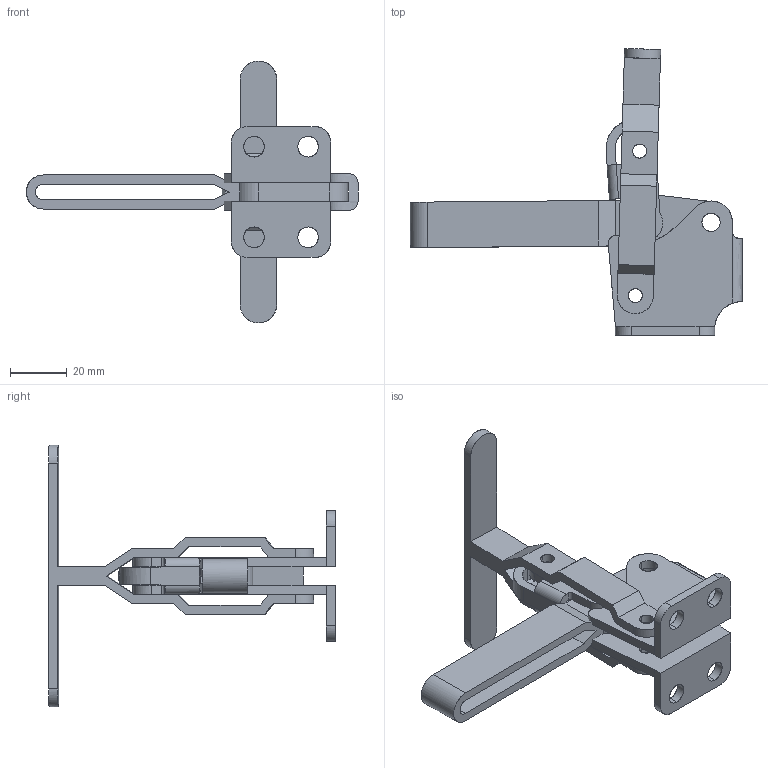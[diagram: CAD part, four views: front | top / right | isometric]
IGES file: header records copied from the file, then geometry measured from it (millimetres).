
Start section: Comment
Global section: file name: 12131.igs; native system:  By Spatial Corp.; preprocessor: XPlus PS/IGES 3.0; author: Author; organization: Title; date: 20050216.170839; units: inch
Bounding box: 116.71 x 100.8 x 92.09 mm (x, y, z)
Surface area: 29646.2 mm2 (no closed solid volume)
Topology: 0 solids, 0 shells, 169 faces, 950 edges, 950 vertices
Faces by surface type: extrusion 88, revolution 81
